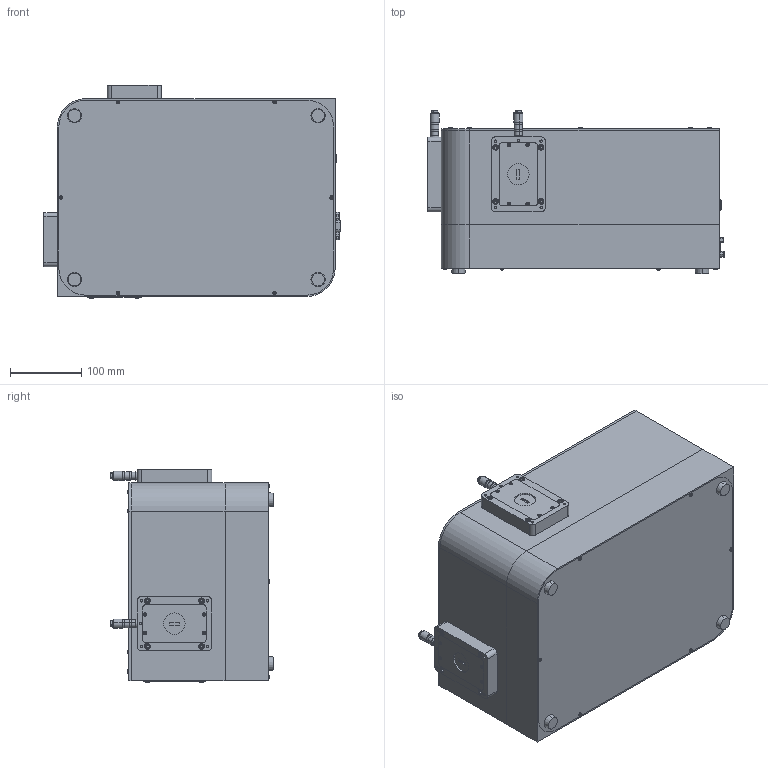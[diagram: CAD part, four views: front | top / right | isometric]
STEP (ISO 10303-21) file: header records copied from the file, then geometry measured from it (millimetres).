
FILE_DESCRIPTION (( 'STEP AP203' ), '1' );
FILE_NAME ('7IMS3011B单光栅扫描单色仪.STEP', '2021-01-11T06:33:04', ( '' ), ( '' ), 'SwSTEP 2.0', 'SolidWorks 2018', '' );
FILE_SCHEMA (( 'CONFIG_CONTROL_DESIGN' ));
Length unit declared in the file: millimetre
Products named in the file (1): 7IMS3011B单光栅扫描单色仪
Bounding box: 416 x 229.74 x 300.2 mm (x, y, z)
Surface area: 554977.7 mm2 (no closed solid volume)
Topology: 0 solids, 109 shells, 770 faces, 2761 edges, 2070 vertices
Faces by surface type: plane 388, cylinder 224, cone 84, sphere 40, torus 34
Entity records: 30080 total; most frequent: CARTESIAN_POINT 5954, DIRECTION 5401, ORIENTED_EDGE 4020, EDGE_CURVE 2749, VERTEX_POINT 2070, AXIS2_PLACEMENT_3D 1941, VECTOR 1519, LINE 1519
